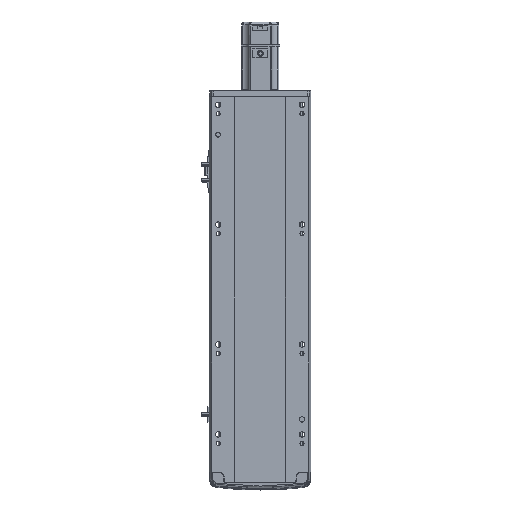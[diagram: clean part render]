
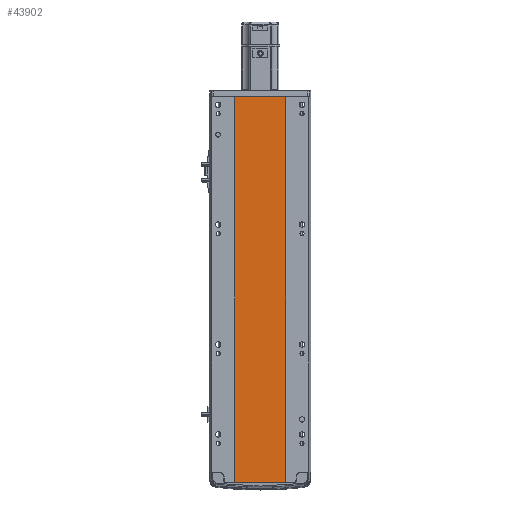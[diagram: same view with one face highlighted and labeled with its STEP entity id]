
A CAD part, front view. The second image highlights one B-rep face of the part: STEP entity #43902.
In plain terms, the highlighted planar face has unit normal (0, -1, 0).
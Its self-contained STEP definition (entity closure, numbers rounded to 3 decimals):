
#221 = CARTESIAN_POINT ( 'NONE',  ( 0., 0.999, 643.5 ) ) ;
#2691 = CARTESIAN_POINT ( 'NONE',  ( 0., 0.999, 0. ) ) ;
#4005 = DIRECTION ( 'NONE',  ( 0., 1., 0. ) ) ;
#7094 = FACE_OUTER_BOUND ( 'NONE', #22097, .T. ) ;
#7387 = CARTESIAN_POINT ( 'NONE',  ( 0., 0.999, 643.5 ) ) ;
#13815 = VERTEX_POINT ( 'NONE', #38679 ) ;
#14999 = EDGE_CURVE ( 'NONE', #13815, #30251, #32594, .T. ) ;
#15669 = ORIENTED_EDGE ( 'NONE', *, *, #45844, .T. ) ;
#15917 = VECTOR ( 'NONE', #21042, 1000. ) ;
#18123 = LINE ( 'NONE', #2691, #22221 ) ;
#21042 = DIRECTION ( 'NONE',  ( 0., 0., -1. ) ) ;
#22097 = EDGE_LOOP ( 'NONE', ( #15669, #45994, #44494, #34631 ) ) ;
#22221 = VECTOR ( 'NONE', #39835, 1000. ) ;
#22926 = CARTESIAN_POINT ( 'NONE',  ( 41.793, 0.998, 643.5 ) ) ;
#28431 = VERTEX_POINT ( 'NONE', #34346 ) ;
#28671 = CARTESIAN_POINT ( 'NONE',  ( -41.791, 1., 643.5 ) ) ;
#29265 = LINE ( 'NONE', #22926, #33976 ) ;
#29786 = DIRECTION ( 'NONE',  ( 0., 0., -1. ) ) ;
#30192 = DIRECTION ( 'NONE',  ( -1., 0., 0. ) ) ;
#30251 = VERTEX_POINT ( 'NONE', #42000 ) ;
#30417 = AXIS2_PLACEMENT_3D ( 'NONE', #221, #4005, #30192 ) ;
#32594 = LINE ( 'NONE', #7387, #34895 ) ;
#33976 = VECTOR ( 'NONE', #29786, 1000. ) ;
#34210 = DIRECTION ( 'NONE',  ( 1., 0., 0. ) ) ;
#34346 = CARTESIAN_POINT ( 'NONE',  ( -41.791, 1., 0. ) ) ;
#34631 = ORIENTED_EDGE ( 'NONE', *, *, #44068, .T. ) ;
#34895 = VECTOR ( 'NONE', #34210, 1000. ) ;
#35849 = EDGE_CURVE ( 'NONE', #30251, #46436, #29265, .T. ) ;
#38679 = CARTESIAN_POINT ( 'NONE',  ( -41.791, 1., 643.5 ) ) ;
#39278 = LINE ( 'NONE', #28671, #15917 ) ;
#39835 = DIRECTION ( 'NONE',  ( 1., 0., 0. ) ) ;
#42000 = CARTESIAN_POINT ( 'NONE',  ( 41.793, 0.998, 643.5 ) ) ;
#43902 = ADVANCED_FACE ( 'NONE', ( #7094 ), #45035, .F. ) ;
#44068 = EDGE_CURVE ( 'NONE', #13815, #28431, #39278, .T. ) ;
#44475 = CARTESIAN_POINT ( 'NONE',  ( 41.793, 0.998, 0. ) ) ;
#44494 = ORIENTED_EDGE ( 'NONE', *, *, #14999, .F. ) ;
#45035 = PLANE ( 'NONE',  #30417 ) ;
#45844 = EDGE_CURVE ( 'NONE', #28431, #46436, #18123, .T. ) ;
#45994 = ORIENTED_EDGE ( 'NONE', *, *, #35849, .F. ) ;
#46436 = VERTEX_POINT ( 'NONE', #44475 ) ;
